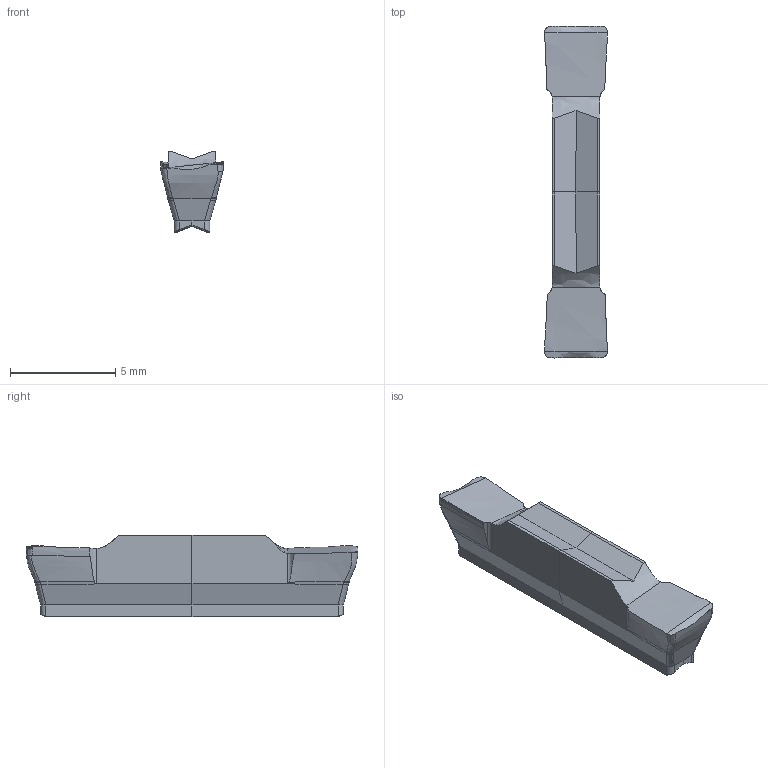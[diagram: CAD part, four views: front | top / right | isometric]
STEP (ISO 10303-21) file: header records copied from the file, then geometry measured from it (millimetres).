
FILE_DESCRIPTION(('CATIA V5 STEP','CAx-IF Rec.Pracs.--- Model Styling and Organization---1.2---2011-12-15'),'2;1');
FILE_NAME('C:\eit\appserv\eitdev\tmp\eit\transmagicconvert\2115833\GRIP 3003Y.stp','2018-11-21T13:08:39+00:00',('none'),('none'),'CATIA Version 5 Release 21 SP 5 (IN-10)','CATIA V5 STEP AP214','none');
FILE_SCHEMA(('AUTOMOTIVE_DESIGN { 1 0 10303 214 1 1 1 1 }'));
Length unit declared in the file: millimetre
Products named in the file (1): GRIP 3003Y
Bounding box: 2.99 x 15.79 x 3.89 mm (x, y, z)
Volume: 108.6 mm3; surface area: 188.6 mm2
Topology: 1 solids, 1 shells, 146 faces, 407 edges, 264 vertices
Faces by surface type: bspline 84, plane 36, cylinder 26
Entity records: 11287 total; most frequent: CARTESIAN_POINT 8515, ORIENTED_EDGE 778, EDGE_CURVE 389, B_SPLINE_CURVE_WITH_KNOTS 308, VERTEX_POINT 245, DIRECTION 189, ADVANCED_FACE 146, EDGE_LOOP 146
